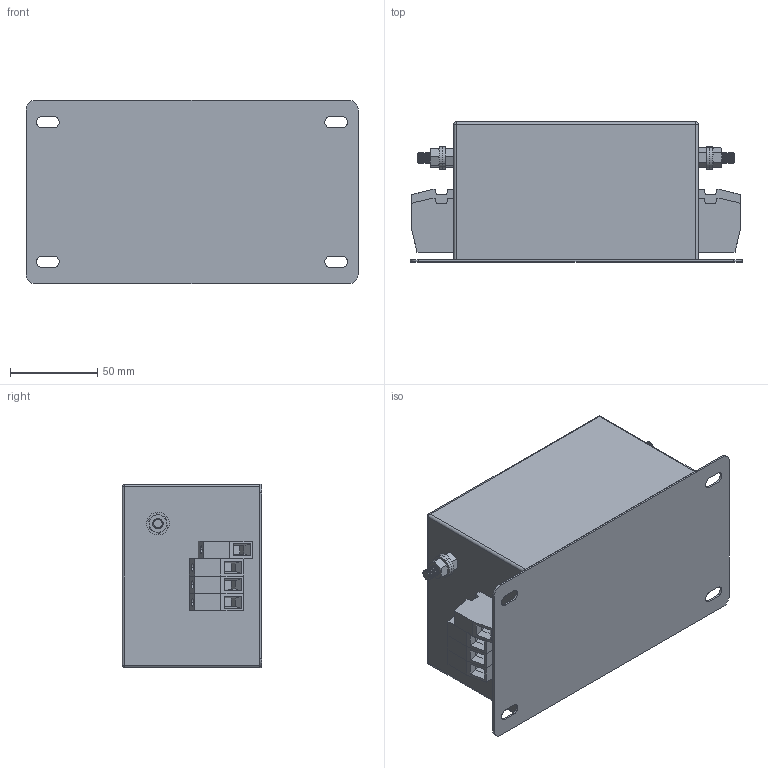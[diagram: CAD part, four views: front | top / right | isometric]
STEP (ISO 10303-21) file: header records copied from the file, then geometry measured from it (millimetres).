
FILE_DESCRIPTION (( 'STEP AP203' ), '1' );
FILE_NAME ('NF-4-36-FSK.STEP', '2013-07-12T14:25:04', ( 'Owner' ), ( 'EPA' ), 'SwSTEP 2.0', 'SolidWorks 2007', '' );
FILE_SCHEMA (( 'CONFIG_CONTROL_DESIGN' ));
Length unit declared in the file: millimetre
Products named in the file (7): Hex Nut Style 1_AM_B18.2.4.1M - Hex nut, Style 1,  M6 x 1 --D-N; HDFK-10; NF-4-36-FSK; FSK-1; M6x16 Earth post; Hex Screw_AM_B18.6.7M - M6 x 1.0 x 16 Plain HHMS --16S; Flat Washer Narrow_AM_B18.22M - Plain washer, 6 mm, narrow
Assembly tree (15 placements, depth 3):
  NF-4-36-FSK
    HDFK-10  x8
    M6x16 Earth post  x2
      Flat Washer Narrow_AM_B18.22M - Plain washer, 6 mm, narrow
      Hex Screw_AM_B18.6.7M - M6 x 1.0 x 16 Plain HHMS --16S
      Hex Nut Style 1_AM_B18.2.4.1M - Hex nut, Style 1,  M6 x 1 --D-N
    FSK-1
Bounding box: 190 x 80 x 105 mm (x, y, z)
Volume: 1196417.6 mm3; surface area: 161234.9 mm2
Topology: 26 solids, 26 shells, 760 faces, 1794 edges, 1132 vertices
Faces by surface type: plane 414, cylinder 174, cone 168, sphere 4
Entity records: 8749 total; most frequent: CARTESIAN_POINT 1476, DIRECTION 1422, ORIENTED_EDGE 1256, EDGE_CURVE 628, AXIS2_PLACEMENT_3D 556, VERTEX_POINT 394, VECTOR 310, LINE 310
